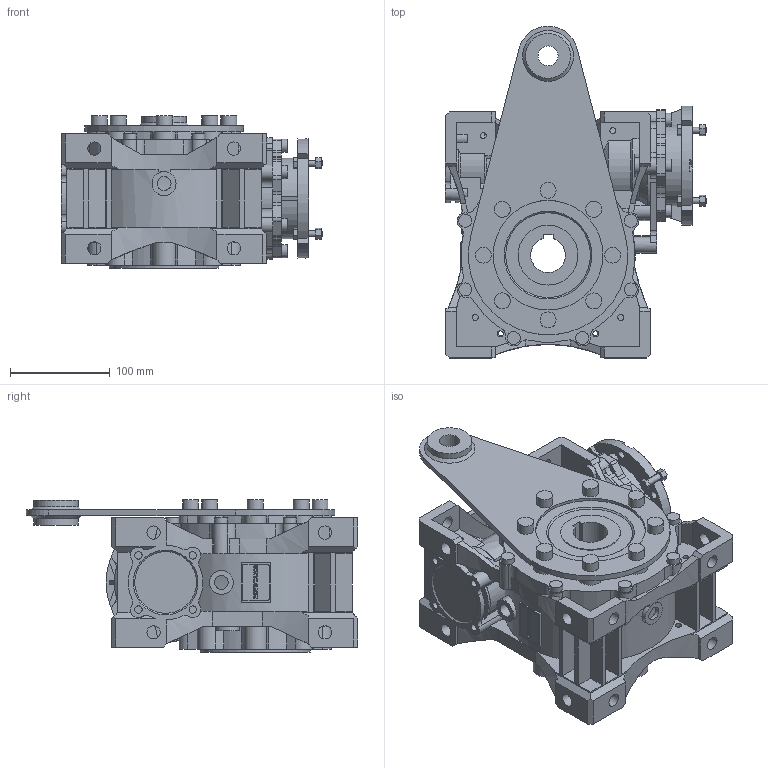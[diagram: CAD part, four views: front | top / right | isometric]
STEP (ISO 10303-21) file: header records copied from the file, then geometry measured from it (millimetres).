
FILE_DESCRIPTION(/* description */ ('STEP AP203'),/* implementation_level */ '2;1');
FILE_NAME(/* name */ 'NMRVP_090_120x19_35_NO_NO_-_-_NO_-_D_5_NO_NO_-_---_---------------',/* time_stamp */ '2025-12-03T05:35:14+01:00',/* author */ ('License CC BY-ND 4.0'),/* organization */ ('CADENAS'),/* preprocessor_version */ 'ST-DEVELOPER v20',/* originating_system */ 'PARTsolutions',/* authorisation */ ' ');
FILE_SCHEMA (('CONFIG_CONTROL_DESIGN'));
Length unit declared in the file: millimetre
Products named in the file (7): NMRVP 090 120x19 35 NO NO - - NO - D 5 NO NO - ---(---------------); W.090.01.M; 090-35 (140); W.090.14.19.M-p; 9080 B14; 90-50; 90-200-p
Assembly tree (6 placements, depth 2):
  NMRVP 090 120x19 35 NO NO - - NO - D 5 NO NO - ---(---------------)
    W.090.01.M
    090-35 (140)
    W.090.14.19.M-p
    9080 B14
    90-50
    90-200-p
Bounding box: 262.1 x 333 x 153 mm (x, y, z)
Volume: 4602867.1 mm3; surface area: 583563.1 mm2
Topology: 6 solids, 8 shells, 1527 faces, 4147 edges, 2747 vertices
Faces by surface type: plane 799, cylinder 630, cone 95, torus 3
Full cylindrical faces by diameter (mm): 6 x20, 7.45 x12, 8.376 x16, 13 x14, 13.4 x14, 14 x4, 16 x8, 20 x1, 24 x2, 29 x1, 31 x1, 45 x3, 50 x3, 58 x1, 60 x1, 72.5 x1, 75 x2, 80 x1, 90 x2, 110 x3
Entity records: 47759 total; most frequent: CARTESIAN_POINT 8989, DIRECTION 8173, ORIENTED_EDGE 7840, EDGE_CURVE 3920, AXIS2_PLACEMENT_3D 2952, VERTEX_POINT 2701, LINE 2269, VECTOR 2269
